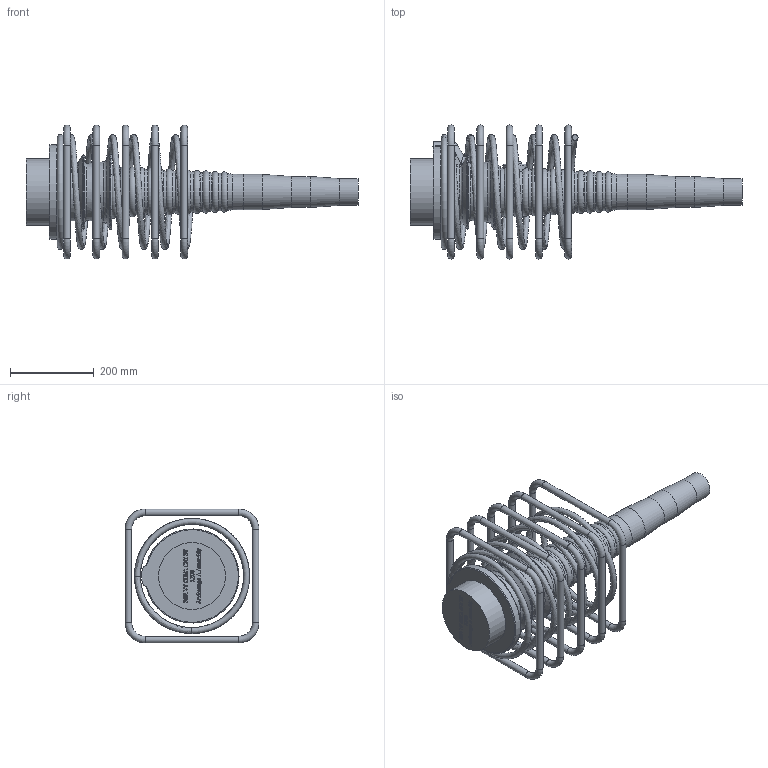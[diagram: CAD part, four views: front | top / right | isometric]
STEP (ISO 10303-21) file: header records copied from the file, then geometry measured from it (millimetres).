
FILE_DESCRIPTION(/* description */ (''),/* implementation_level */ '2;1');
FILE_NAME(/* name */ 'Z:\04 Publications\05 Give-out\BBR\6_3D_Models\BBR VT CONA CMI\BBR VT CONA CMI BT\01206\BBR VT CONA CMI BT 1206_Anchorage A Assembly_CS-34,28.stp',/* time_stamp */ '2017-05-05T08:28:26+02:00',/* author */ ('IP'),/* organization */ (''),/* preprocessor_version */ 'ST-DEVELOPER v16.1',/* originating_system */ 'Autodesk Inventor 2016',/* authorisation */ '');
FILE_SCHEMA (('AUTOMOTIVE_DESIGN { 1 0 10303 214 3 1 1 }'));
Length unit declared in the file: millimetre
Products named in the file (1): BBR VT CONA CMI BT 1206_Anchorage A Assembly_CS-34,28
Bounding box: 793.53 x 320 x 320 mm (x, y, z)
Volume: 10117833.4 mm3; surface area: 919946 mm2
Topology: 7 solids, 7 shells, 781 faces, 2001 edges, 1282 vertices
Faces by surface type: plane 324, bspline 310, torus 75, cylinder 41, cone 17, sphere 14
Full cylindrical faces by diameter (mm): 16 x20, 34 x1, 57 x1, 64.013 x1, 74.013 x1, 84.013 x1, 160 x1, 177.282 x1, 178.841 x1
Entity records: 28935 total; most frequent: CARTESIAN_POINT 11665, ORIENTED_EDGE 3776, DIRECTION 2407, EDGE_CURVE 1888, VERTEX_POINT 1275, LINE 1071, VECTOR 1071, EDGE_LOOP 947
